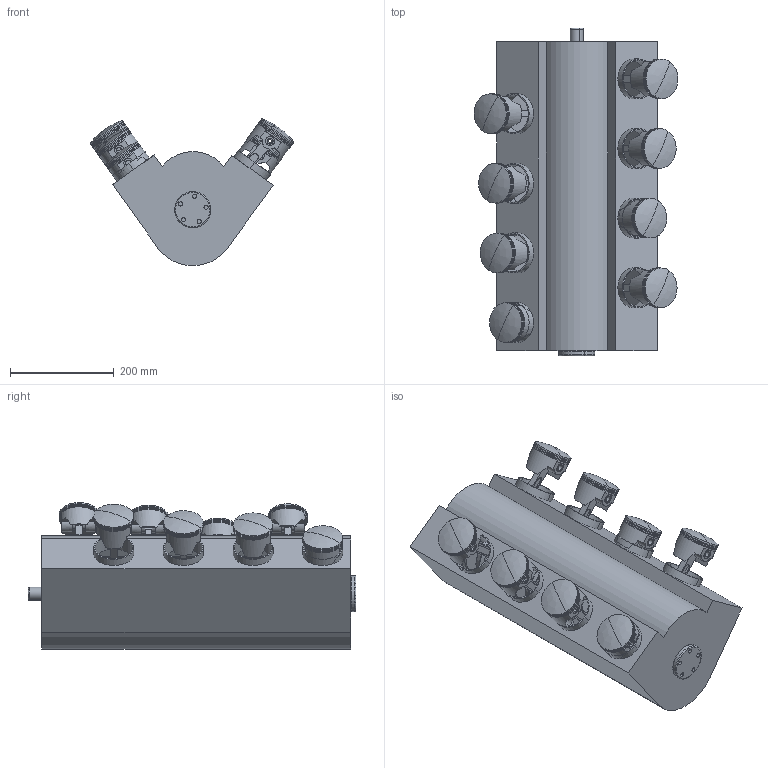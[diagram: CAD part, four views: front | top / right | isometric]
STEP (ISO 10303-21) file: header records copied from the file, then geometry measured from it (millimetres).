
FILE_DESCRIPTION(('CATIA V5 STEP Exchange'),'2;1');
FILE_NAME('C:\Documents and Settings\ABHIJEET\Desktop\main assembly.stp','2011-10-19T15:52:13+00:00',('none'),('none'),'CATIA Version 5 Release 19 GA (IN-10)','CATIA V5 STEP AP203','none');
FILE_SCHEMA(('CONFIG_CONTROL_DESIGN'));
Length unit declared in the file: millimetre
Products named in the file (3): main assembly; piston rod assembly; piston end  assembly
Assembly tree (32 placements, depth 3):
  main assembly
    #56  x8
    #4444
    piston rod assembly  x8
      #5527
      #6938
      #7619
    piston end  assembly  x8
      #8132
      #9332
    #9607
Bounding box: 392.75 x 631.45 x 282.8 mm (x, y, z)
Volume: 8851806.5 mm3; surface area: 2222659.2 mm2
Topology: 59 solids, 59 shells, 2356 faces, 5564 edges, 3434 vertices
Faces by surface type: cylinder 1034, plane 682, torus 240, cone 176, bspline 128, sphere 64, revolution 16, extrusion 16
Entity records: 12463 total; most frequent: CARTESIAN_POINT 3310, ORIENTED_EDGE 1928, DIRECTION 1546, EDGE_CURVE 964, AXIS2_PLACEMENT_3D 823, VERTEX_POINT 607, CIRCLE 493, EDGE_LOOP 471
